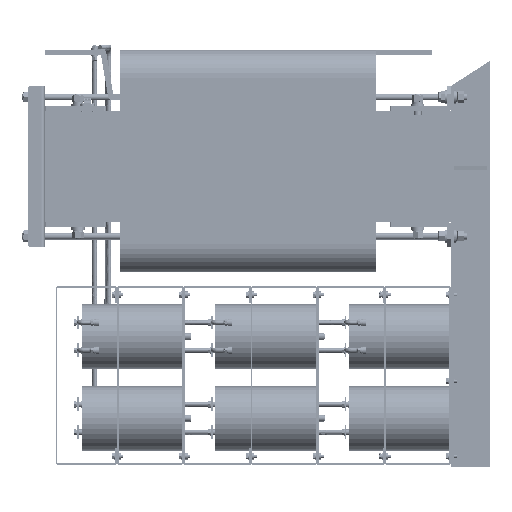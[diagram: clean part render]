
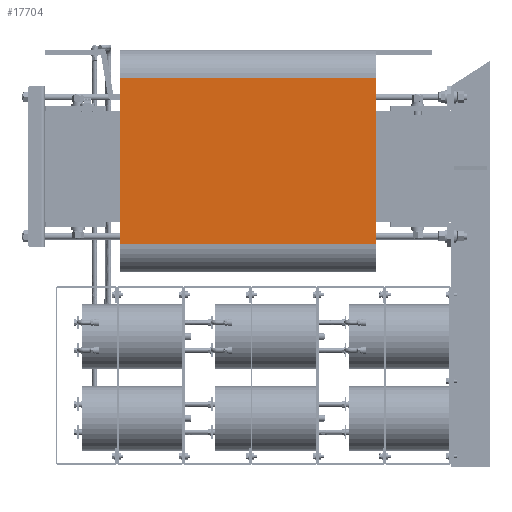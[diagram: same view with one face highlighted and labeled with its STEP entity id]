
A CAD part, left-side view. The second image highlights one B-rep face of the part: STEP entity #17704.
In plain terms, the highlighted planar face has unit normal (-1, 0, 0).
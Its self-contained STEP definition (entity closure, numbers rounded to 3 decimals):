
#17704=ADVANCED_FACE('',(#31402),#31404,.F.);
#31402=FACE_BOUND('',#31403,.T.);
#31403=EDGE_LOOP('',(#60392,#60393,#60394,#60395));
#31404=PLANE('',#31405);
#31405=AXIS2_PLACEMENT_3D('',#31406,#31407,#31408);
#31406=CARTESIAN_POINT('',(-118.5,190.,230.));
#31407=DIRECTION('',(1.,0.,0.));
#31408=DIRECTION('',(0.,1.,0.));
#60392=ORIENTED_EDGE('',*,*,#67277,.T.);
#60393=ORIENTED_EDGE('',*,*,#67295,.T.);
#60394=ORIENTED_EDGE('',*,*,#67259,.F.);
#60395=ORIENTED_EDGE('',*,*,#67296,.T.);
#67259=EDGE_CURVE('',#71148,#71149,#71150,.T.);
#67277=EDGE_CURVE('',#71185,#71183,#71186,.T.);
#67295=EDGE_CURVE('',#71183,#71149,#71216,.T.);
#67296=EDGE_CURVE('',#71148,#71185,#71217,.T.);
#71148=VERTEX_POINT('',#78762);
#71149=VERTEX_POINT('',#78763);
#71150=LINE('',#78764,#78765);
#71183=VERTEX_POINT('',#78839);
#71185=VERTEX_POINT('',#78844);
#71186=LINE('',#78845,#78846);
#71216=LINE('',#78918,#78919);
#71217=LINE('',#78921,#78922);
#78762=CARTESIAN_POINT('',(-118.5,139.,230.));
#78763=CARTESIAN_POINT('',(-118.5,-159.,230.));
#78764=CARTESIAN_POINT('',(-118.5,139.,230.));
#78765=VECTOR('',#78766,1.);
#78766=DIRECTION('',(0.,-1.,0.));
#78839=CARTESIAN_POINT('',(-118.5,-159.,-230.));
#78844=CARTESIAN_POINT('',(-118.5,139.,-230.));
#78845=CARTESIAN_POINT('',(-118.5,139.,-230.));
#78846=VECTOR('',#78847,1.);
#78847=DIRECTION('',(0.,-1.,0.));
#78918=CARTESIAN_POINT('',(-118.5,-159.,-230.));
#78919=VECTOR('',#78920,1.);
#78920=DIRECTION('',(0.,0.,1.));
#78921=CARTESIAN_POINT('',(-118.5,139.,230.));
#78922=VECTOR('',#78923,1.);
#78923=DIRECTION('',(0.,0.,-1.));
